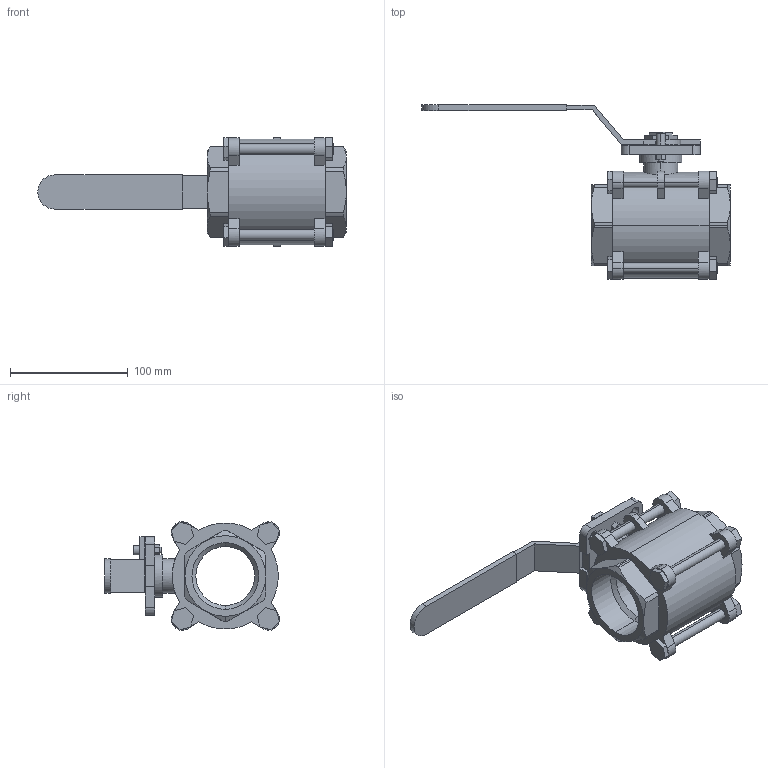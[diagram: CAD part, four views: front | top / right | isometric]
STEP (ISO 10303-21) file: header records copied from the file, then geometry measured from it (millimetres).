
FILE_DESCRIPTION (( 'STEP AP203' ), '1' );
FILE_NAME ('C3.622I050IFVPB0.STEP', '2018-10-12T14:41:00', ( '' ), ( '' ), 'SwSTEP 2.0', 'SolidWorks 2014', '' );
FILE_SCHEMA (( 'CONFIG_CONTROL_DESIGN' ));
Length unit declared in the file: millimetre
Products named in the file (1): C3.622I050IFVPB0
Bounding box: 262 x 148.41 x 91.83 mm (x, y, z)
Volume: 535731.6 mm3; surface area: 103771.9 mm2
Topology: 1 solids, 1 shells, 332 faces, 851 edges, 539 vertices
Faces by surface type: plane 231, cylinder 83, cone 18
Entity records: 10319 total; most frequent: CARTESIAN_POINT 2005, DIRECTION 1724, ORIENTED_EDGE 1702, EDGE_CURVE 851, LINE 592, VECTOR 592, AXIS2_PLACEMENT_3D 566, VERTEX_POINT 539
